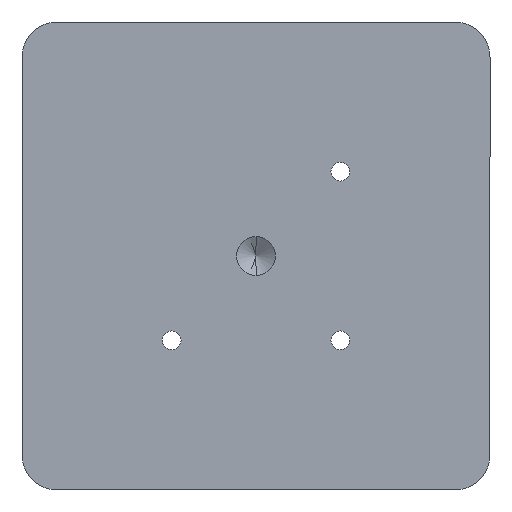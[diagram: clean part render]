
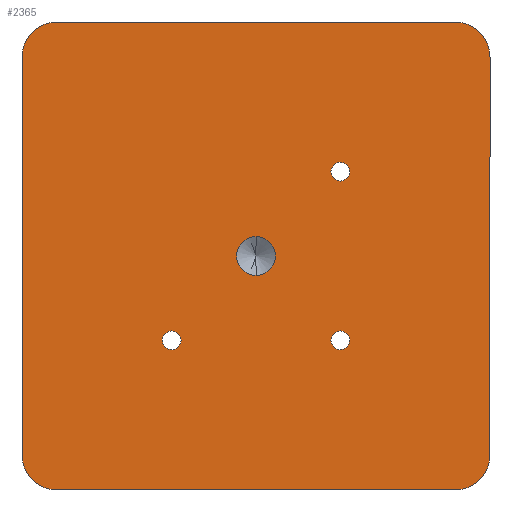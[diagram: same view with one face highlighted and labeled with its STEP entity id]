
A CAD part, front view. The second image highlights one B-rep face of the part: STEP entity #2365.
In plain terms, the highlighted planar face has unit normal (0, -1, 0).
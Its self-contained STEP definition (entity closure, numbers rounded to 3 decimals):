
#26 = ORIENTED_EDGE ( 'NONE', *, *, #2525, .F. ) ;
#38 = CARTESIAN_POINT ( 'NONE',  ( -17., 0., -17. ) ) ;
#57 = CARTESIAN_POINT ( 'NONE',  ( 0., 0., 0. ) ) ;
#80 = AXIS2_PLACEMENT_3D ( 'NONE', #314, #958, #1225 ) ;
#95 = ORIENTED_EDGE ( 'NONE', *, *, #2616, .T. ) ;
#99 = DIRECTION ( 'NONE',  ( 0., 0., 1. ) ) ;
#132 = DIRECTION ( 'NONE',  ( 0., 0., 1. ) ) ;
#146 = ORIENTED_EDGE ( 'NONE', *, *, #1989, .T. ) ;
#150 = CIRCLE ( 'NONE', #1770, 0.8 ) ;
#158 = AXIS2_PLACEMENT_3D ( 'NONE', #434, #1014, #3203 ) ;
#169 = CARTESIAN_POINT ( 'NONE',  ( 20., 0., -17. ) ) ;
#199 = ORIENTED_EDGE ( 'NONE', *, *, #1724, .F. ) ;
#216 = AXIS2_PLACEMENT_3D ( 'NONE', #437, #1298, #3734 ) ;
#231 = ORIENTED_EDGE ( 'NONE', *, *, #2577, .T. ) ;
#254 = FACE_BOUND ( 'NONE', #2267, .T. ) ;
#283 = VERTEX_POINT ( 'NONE', #2808 ) ;
#314 = CARTESIAN_POINT ( 'NONE',  ( -7.2, 0., -7.2 ) ) ;
#391 = DIRECTION ( 'NONE',  ( 0., 1., 0. ) ) ;
#425 = DIRECTION ( 'NONE',  ( 0., 1., 0. ) ) ;
#429 = DIRECTION ( 'NONE',  ( 1., 0., 0. ) ) ;
#431 = EDGE_CURVE ( 'NONE', #471, #3882, #3640, .T. ) ;
#434 = CARTESIAN_POINT ( 'NONE',  ( 7.2, 0., -7.2 ) ) ;
#435 = VERTEX_POINT ( 'NONE', #3749 ) ;
#437 = CARTESIAN_POINT ( 'NONE',  ( 17., 0., -17. ) ) ;
#471 = VERTEX_POINT ( 'NONE', #1980 ) ;
#483 = AXIS2_PLACEMENT_3D ( 'NONE', #2902, #425, #1901 ) ;
#521 = EDGE_CURVE ( 'NONE', #3488, #2108, #1398, .T. ) ;
#533 = AXIS2_PLACEMENT_3D ( 'NONE', #889, #1518, #3373 ) ;
#548 = VERTEX_POINT ( 'NONE', #2338 ) ;
#555 = CARTESIAN_POINT ( 'NONE',  ( 17., 0., 20. ) ) ;
#611 = CIRCLE ( 'NONE', #814, 3. ) ;
#762 = ORIENTED_EDGE ( 'NONE', *, *, #1688, .T. ) ;
#791 = CIRCLE ( 'NONE', #80, 0.8 ) ;
#794 = EDGE_CURVE ( 'NONE', #3882, #471, #3011, .T. ) ;
#814 = AXIS2_PLACEMENT_3D ( 'NONE', #2818, #3818, #3172 ) ;
#831 = VERTEX_POINT ( 'NONE', #3242 ) ;
#889 = CARTESIAN_POINT ( 'NONE',  ( 0., 0., 0. ) ) ;
#915 = DIRECTION ( 'NONE',  ( 0., 0., 1. ) ) ;
#958 = DIRECTION ( 'NONE',  ( 0., 1., 0. ) ) ;
#996 = EDGE_CURVE ( 'NONE', #831, #1488, #3720, .T. ) ;
#1008 = EDGE_CURVE ( 'NONE', #1601, #1355, #611, .T. ) ;
#1014 = DIRECTION ( 'NONE',  ( 0., 1., 0. ) ) ;
#1019 = CARTESIAN_POINT ( 'NONE',  ( 0., 0., -1.65 ) ) ;
#1038 = DIRECTION ( 'NONE',  ( 0., 0., 1. ) ) ;
#1040 = CARTESIAN_POINT ( 'NONE',  ( 7.2, 0., -8. ) ) ;
#1105 = EDGE_CURVE ( 'NONE', #1580, #2260, #3402, .T. ) ;
#1133 = ORIENTED_EDGE ( 'NONE', *, *, #996, .F. ) ;
#1167 = EDGE_CURVE ( 'NONE', #548, #1343, #2049, .T. ) ;
#1225 = DIRECTION ( 'NONE',  ( 0., 0., 1. ) ) ;
#1227 = CARTESIAN_POINT ( 'NONE',  ( -17., 0., 17. ) ) ;
#1248 = CIRCLE ( 'NONE', #3507, 3. ) ;
#1291 = DIRECTION ( 'NONE',  ( 0., 0., -1. ) ) ;
#1298 = DIRECTION ( 'NONE',  ( 0., -1., 0. ) ) ;
#1326 = CIRCLE ( 'NONE', #3256, 3. ) ;
#1334 = ORIENTED_EDGE ( 'NONE', *, *, #2634, .T. ) ;
#1343 = VERTEX_POINT ( 'NONE', #1798 ) ;
#1355 = VERTEX_POINT ( 'NONE', #555 ) ;
#1398 = LINE ( 'NONE', #3271, #3262 ) ;
#1441 = ORIENTED_EDGE ( 'NONE', *, *, #431, .T. ) ;
#1469 = DIRECTION ( 'NONE',  ( 0., 0., 1. ) ) ;
#1488 = VERTEX_POINT ( 'NONE', #1019 ) ;
#1496 = FACE_OUTER_BOUND ( 'NONE', #3036, .T. ) ;
#1505 = DIRECTION ( 'NONE',  ( 0., -1., 0. ) ) ;
#1507 = CIRCLE ( 'NONE', #1953, 0.8 ) ;
#1518 = DIRECTION ( 'NONE',  ( 0., 1., 0. ) ) ;
#1580 = VERTEX_POINT ( 'NONE', #3447 ) ;
#1601 = VERTEX_POINT ( 'NONE', #2756 ) ;
#1684 = ORIENTED_EDGE ( 'NONE', *, *, #1105, .T. ) ;
#1688 = EDGE_CURVE ( 'NONE', #283, #2108, #1248, .T. ) ;
#1695 = ORIENTED_EDGE ( 'NONE', *, *, #3971, .F. ) ;
#1724 = EDGE_CURVE ( 'NONE', #283, #1355, #1926, .T. ) ;
#1770 = AXIS2_PLACEMENT_3D ( 'NONE', #2549, #391, #3479 ) ;
#1798 = CARTESIAN_POINT ( 'NONE',  ( -17., 0., -20. ) ) ;
#1838 = CIRCLE ( 'NONE', #1903, 1.65 ) ;
#1847 = EDGE_LOOP ( 'NONE', ( #1334, #231 ) ) ;
#1850 = ORIENTED_EDGE ( 'NONE', *, *, #1167, .F. ) ;
#1901 = DIRECTION ( 'NONE',  ( 0., 0., 1. ) ) ;
#1903 = AXIS2_PLACEMENT_3D ( 'NONE', #2154, #1505, #1291 ) ;
#1922 = DIRECTION ( 'NONE',  ( 0., -1., 0. ) ) ;
#1926 = LINE ( 'NONE', #2256, #2531 ) ;
#1939 = DIRECTION ( 'NONE',  ( 0., 1., 0. ) ) ;
#1953 = AXIS2_PLACEMENT_3D ( 'NONE', #3799, #1939, #1038 ) ;
#1980 = CARTESIAN_POINT ( 'NONE',  ( 7.2, 0., -6.4 ) ) ;
#1982 = VECTOR ( 'NONE', #3914, 1000. ) ;
#1989 = EDGE_CURVE ( 'NONE', #2260, #1580, #791, .T. ) ;
#2049 = LINE ( 'NONE', #2639, #1982 ) ;
#2066 = CARTESIAN_POINT ( 'NONE',  ( -7.2, 0., -8. ) ) ;
#2108 = VERTEX_POINT ( 'NONE', #3442 ) ;
#2114 = ORIENTED_EDGE ( 'NONE', *, *, #1008, .T. ) ;
#2154 = CARTESIAN_POINT ( 'NONE',  ( 0., 0., 0. ) ) ;
#2161 = AXIS2_PLACEMENT_3D ( 'NONE', #3300, #3877, #1469 ) ;
#2256 = CARTESIAN_POINT ( 'NONE',  ( -20., 0., 20. ) ) ;
#2258 = CARTESIAN_POINT ( 'NONE',  ( -20., 0., -17. ) ) ;
#2260 = VERTEX_POINT ( 'NONE', #2066 ) ;
#2267 = EDGE_LOOP ( 'NONE', ( #1441, #2486 ) ) ;
#2288 = VERTEX_POINT ( 'NONE', #3558 ) ;
#2337 = ORIENTED_EDGE ( 'NONE', *, *, #2598, .T. ) ;
#2338 = CARTESIAN_POINT ( 'NONE',  ( 17., 0., -20. ) ) ;
#2365 = ADVANCED_FACE ( 'NONE', ( #3041, #254, #3057, #3654, #1496 ), #2723, .F. ) ;
#2455 = DIRECTION ( 'NONE',  ( 0., -1., 0. ) ) ;
#2486 = ORIENTED_EDGE ( 'NONE', *, *, #794, .T. ) ;
#2525 = EDGE_CURVE ( 'NONE', #1601, #3124, #3086, .T. ) ;
#2531 = VECTOR ( 'NONE', #429, 1000. ) ;
#2549 = CARTESIAN_POINT ( 'NONE',  ( 7.2, 0., 7.2 ) ) ;
#2577 = EDGE_CURVE ( 'NONE', #435, #2288, #150, .T. ) ;
#2598 = EDGE_CURVE ( 'NONE', #3488, #1343, #1326, .T. ) ;
#2616 = EDGE_CURVE ( 'NONE', #548, #3124, #3689, .T. ) ;
#2634 = EDGE_CURVE ( 'NONE', #2288, #435, #1507, .T. ) ;
#2639 = CARTESIAN_POINT ( 'NONE',  ( 20., 0., -20. ) ) ;
#2723 = PLANE ( 'NONE',  #533 ) ;
#2747 = CARTESIAN_POINT ( 'NONE',  ( 20., 0., 20. ) ) ;
#2756 = CARTESIAN_POINT ( 'NONE',  ( 20., 0., 17. ) ) ;
#2808 = CARTESIAN_POINT ( 'NONE',  ( -17., 0., 20. ) ) ;
#2818 = CARTESIAN_POINT ( 'NONE',  ( 17., 0., 17. ) ) ;
#2902 = CARTESIAN_POINT ( 'NONE',  ( -7.2, 0., -7.2 ) ) ;
#3011 = CIRCLE ( 'NONE', #2161, 0.8 ) ;
#3036 = EDGE_LOOP ( 'NONE', ( #26, #2114, #199, #762, #3073, #2337, #1850, #95 ) ) ;
#3041 = FACE_BOUND ( 'NONE', #3937, .T. ) ;
#3057 = FACE_BOUND ( 'NONE', #1847, .T. ) ;
#3073 = ORIENTED_EDGE ( 'NONE', *, *, #521, .F. ) ;
#3086 = LINE ( 'NONE', #2747, #3206 ) ;
#3124 = VERTEX_POINT ( 'NONE', #169 ) ;
#3172 = DIRECTION ( 'NONE',  ( 0., 0., 1. ) ) ;
#3203 = DIRECTION ( 'NONE',  ( 0., 0., 1. ) ) ;
#3206 = VECTOR ( 'NONE', #3352, 1000. ) ;
#3242 = CARTESIAN_POINT ( 'NONE',  ( 0., 0., 1.65 ) ) ;
#3256 = AXIS2_PLACEMENT_3D ( 'NONE', #38, #3779, #99 ) ;
#3262 = VECTOR ( 'NONE', #132, 1000. ) ;
#3271 = CARTESIAN_POINT ( 'NONE',  ( -20., 0., -20. ) ) ;
#3300 = CARTESIAN_POINT ( 'NONE',  ( 7.2, 0., -7.2 ) ) ;
#3352 = DIRECTION ( 'NONE',  ( 0., 0., -1. ) ) ;
#3373 = DIRECTION ( 'NONE',  ( 0., 0., 1. ) ) ;
#3402 = CIRCLE ( 'NONE', #483, 0.8 ) ;
#3442 = CARTESIAN_POINT ( 'NONE',  ( -20., 0., 17. ) ) ;
#3447 = CARTESIAN_POINT ( 'NONE',  ( -7.2, 0., -6.4 ) ) ;
#3479 = DIRECTION ( 'NONE',  ( 0., 0., 1. ) ) ;
#3488 = VERTEX_POINT ( 'NONE', #2258 ) ;
#3507 = AXIS2_PLACEMENT_3D ( 'NONE', #1227, #2455, #915 ) ;
#3558 = CARTESIAN_POINT ( 'NONE',  ( 7.2, 0., 8. ) ) ;
#3619 = EDGE_LOOP ( 'NONE', ( #1695, #1133 ) ) ;
#3640 = CIRCLE ( 'NONE', #158, 0.8 ) ;
#3654 = FACE_BOUND ( 'NONE', #3619, .T. ) ;
#3689 = CIRCLE ( 'NONE', #216, 3. ) ;
#3720 = CIRCLE ( 'NONE', #3905, 1.65 ) ;
#3734 = DIRECTION ( 'NONE',  ( 0., 0., 1. ) ) ;
#3749 = CARTESIAN_POINT ( 'NONE',  ( 7.2, 0., 6.4 ) ) ;
#3758 = DIRECTION ( 'NONE',  ( 0., 0., -1. ) ) ;
#3779 = DIRECTION ( 'NONE',  ( 0., -1., 0. ) ) ;
#3799 = CARTESIAN_POINT ( 'NONE',  ( 7.2, 0., 7.2 ) ) ;
#3818 = DIRECTION ( 'NONE',  ( 0., -1., 0. ) ) ;
#3877 = DIRECTION ( 'NONE',  ( 0., 1., 0. ) ) ;
#3882 = VERTEX_POINT ( 'NONE', #1040 ) ;
#3905 = AXIS2_PLACEMENT_3D ( 'NONE', #57, #1922, #3758 ) ;
#3914 = DIRECTION ( 'NONE',  ( -1., 0., 0. ) ) ;
#3937 = EDGE_LOOP ( 'NONE', ( #1684, #146 ) ) ;
#3971 = EDGE_CURVE ( 'NONE', #1488, #831, #1838, .T. ) ;
